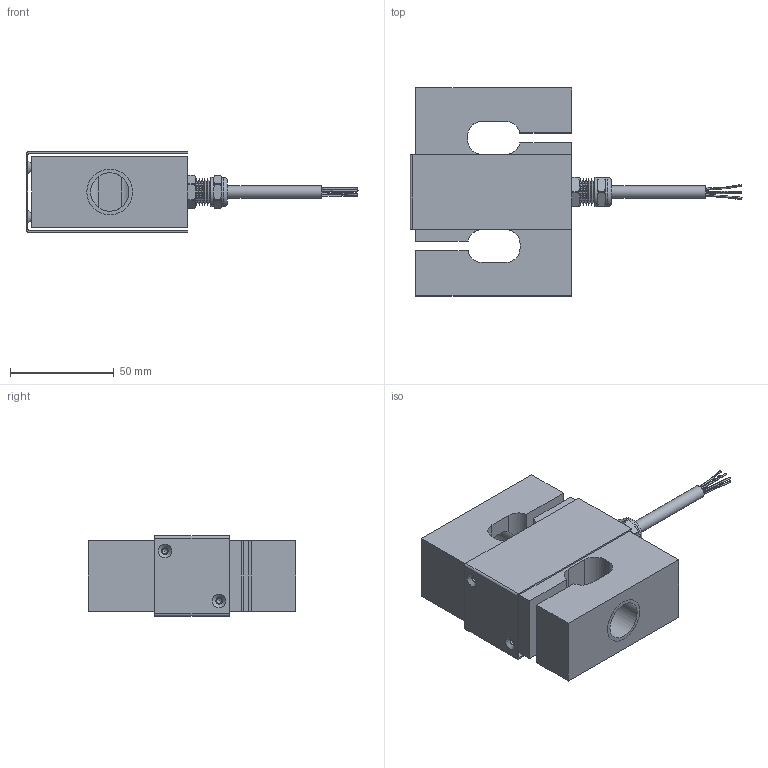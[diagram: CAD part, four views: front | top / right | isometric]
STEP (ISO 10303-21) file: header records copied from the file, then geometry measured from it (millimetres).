
FILE_DESCRIPTION(/* description */ (''),/* implementation_level */ '2;1');
FILE_NAME(/* name */ 'F:/Flintec Files/Datasheets/ut4-datasheet-en/Links/0086719 UXT-5000.step',/* time_stamp */ '2021-02-04T11:34:21+00:00',/* author */ (''),/* organization */ (''),/* preprocessor_version */ 'ST-DEVELOPER v18.1',/* originating_system */ 'Autodesk Translation Framework v9.7.1.1290',/* authorisation */ '');
FILE_SCHEMA (('AUTOMOTIVE_DESIGN { 1 0 10303 214 3 1 1 }'));
Length unit declared in the file: millimetre
Products named in the file (5): 0086719; 0042350; 0080121; 0084559; Component8
Assembly tree (4 placements, depth 2):
  0086719
    0042350
    0080121
    0084559
    Component8
Bounding box: 159.65 x 100 x 38.52 mm (x, y, z)
Volume: 222569.2 mm3; surface area: 51830.5 mm2
Topology: 5 solids, 5 shells, 280 faces, 684 edges, 542 vertices
Faces by surface type: plane 178, cone 49, cylinder 38, bspline 12, torus 3
Full cylindrical faces by diameter (mm): 2.5 x2, 3.1 x2, 6 x1, 7.62 x2, 11.316 x2, 12.695 x1, 13.97 x2, 18.5 x2
Entity records: 10540 total; most frequent: CARTESIAN_POINT 3668, ORIENTED_EDGE 1364, DIRECTION 1335, EDGE_CURVE 682, AXIS2_PLACEMENT_3D 560, VERTEX_POINT 542, EDGE_LOOP 422, CIRCLE 283
